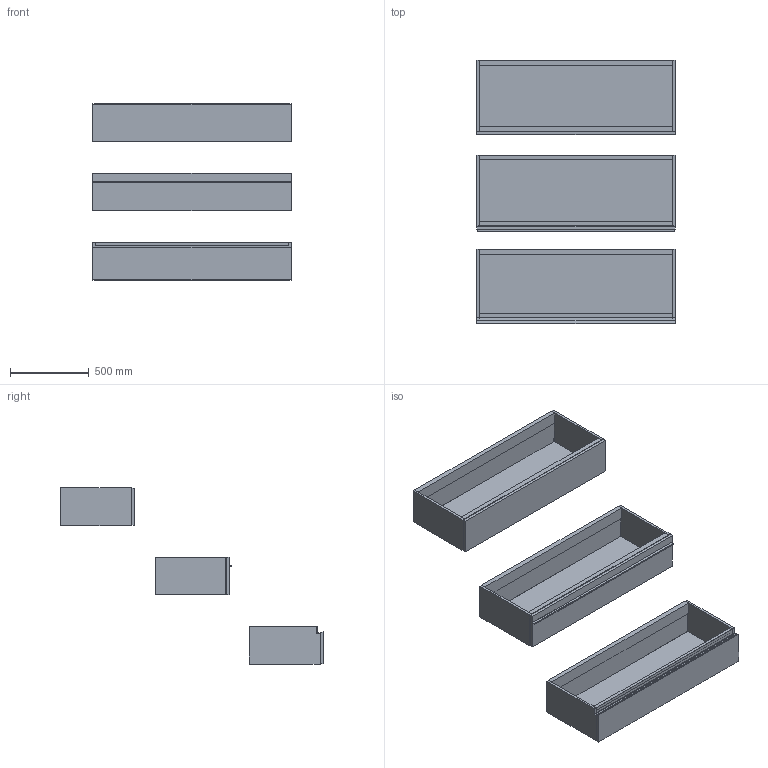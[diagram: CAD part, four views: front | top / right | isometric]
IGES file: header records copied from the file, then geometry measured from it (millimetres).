
Start section: Data from Parasolid IGES Translator 19.0.9, Copyright(c) 2006 Siemens PL M Software. All Rights Reserved.
Global section: file name: noorth-SI-H 24 D 47 W 126_8288.igs; native system: By Siemens PLM Incorporated; preprocessor: XPlus GENERIC/IGES 19.0.9; author: Noname; organization: Noname; date: 20200530.113407; units: metre
Bounding box: 1260 x 1669.1 x 1120.01 mm (x, y, z)
Volume: 66060721.4 mm3; surface area: 9703215.9 mm2
Topology: 23 solids, 23 shells, 196 faces, 418 edges, 258 vertices
Faces by surface type: plane 152, extrusion 16, bspline 16, cylinder 12
